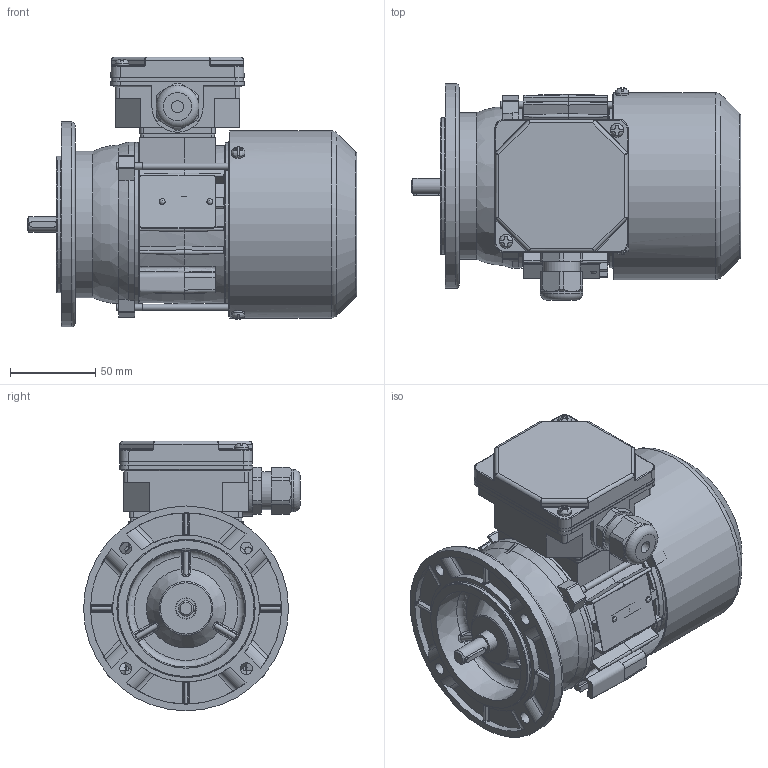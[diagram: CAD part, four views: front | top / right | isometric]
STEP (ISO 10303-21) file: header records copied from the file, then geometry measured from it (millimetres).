
FILE_DESCRIPTION( ( 'Unknown' ), '1' );
FILE_NAME( 'G:/Poczta Tk-1/STP/w.m.56/Sh56/SKh56-B.stp', 'Unknown', ( 'K. Szlosek' ), ( 'BESEL S.A.' ), 'PSStep 17.0.49', 'Unknown', ' ' );
FILE_SCHEMA( ( 'AUTOMOTIVE_DESIGN { 1 0 10303 214 1 1 1 1 }' ) );
Length unit declared in the file: millimetre
Products named in the file (28): Assem1; K4-2320 Uszczelka nr 1 Sh71,80; K1-0512 Tarcza kołnierzowa B5  SKg56-..; K3-9987 kadłub ze stojanem Sh56-B; K3-2193 Tarcza łożyskowa P Sg56-2..; K3-9990 wał Sh56-B; K2-0860 Pokrywka skrzynki zaciskowej; Wpust A3x3x16; K3-2977 Osłona przewietrznika Sg56; K4-2820 Uszczelka nr 2 Sh71,80; Wkręt samogwintujący M4x8; Wkręt samogwintujący M4x16; K2-0879 Przewietrznik Sg56; Nitokołek A 2x6; K2-0859 Podstawa skrzynki 6-cio zaciskowej; Śruba ściągająca E_M4x75; Tabliczka znamionowa 32x44; Łożysko 6201; Dławnica M20x1,5
Assembly tree (43 placements, depth 2):
  Assem1
    K4-2320 Uszczelka nr 1 Sh71,80
    K1-0512 Tarcza kołnierzowa B5  SKg56-..
    K3-9987 kadłub ze stojanem Sh56-B
    K3-2193 Tarcza łożyskowa P Sg56-2..
    K3-9990 wał Sh56-B
    K2-0860 Pokrywka skrzynki zaciskowej
    Wpust A3x3x16
    K3-2977 Osłona przewietrznika Sg56
    K4-2820 Uszczelka nr 2 Sh71,80
    Wkręt samogwintujący M4x8  x3
    Wkręt samogwintujący M4x16  x2
    K2-0879 Przewietrznik Sg56
    Nitokołek A 2x6  x2
    K2-0859 Podstawa skrzynki 6-cio zaciskowej
    Śruba ściągająca E_M4x75  x3
    Tabliczka znamionowa 32x44
    Łożysko 6201  x2
    Łożysko 6201  x2
    Łożysko 6201  x2
    Łożysko 6201  x2
    Łożysko 6201  x2
    Łożysko 6201  x2
    Łożysko 6201  x2
    Łożysko 6201  x2
    Łożysko 6201  x2
    Łożysko 6201  x2
    Dławnica M20x1,5
Bounding box: 193 x 127 x 158 mm (x, y, z)
Volume: 427760.1 mm3; surface area: 304197.1 mm2
Topology: 43 solids, 59 shells, 1772 faces, 4772 edges, 3080 vertices
Faces by surface type: plane 898, cylinder 525, bspline 117, cone 104, torus 94, sphere 34
Full cylindrical faces by diameter (mm): 2 x2, 2.4 x2, 3.3 x3, 3.7 x10, 4 x8, 4.5 x4, 4.8 x4, 5 x4, 7 x8, 8 x6, 9 x1, 10.9 x1, 11 x1, 11.5 x1, 11.8 x2, 12 x4, 12.4 x2, 15.5 x1, 16 x1, 16.1 x1, 17 x2, 18.376 x1, 18.38 x1, 18.52 x4, 20 x1, 22.3 x1, 24 x2, 25 x1, 25.48 x4, 27 x2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
Entity records: 79209 total; most frequent: CARTESIAN_POINT 26471, ORIENTED_EDGE 8180, DIRECTION 8042, EDGE_CURVE 4090, AXIS2_PLACEMENT_3D 2984, VERTEX_POINT 2766, LINE 2074, VECTOR 2074
